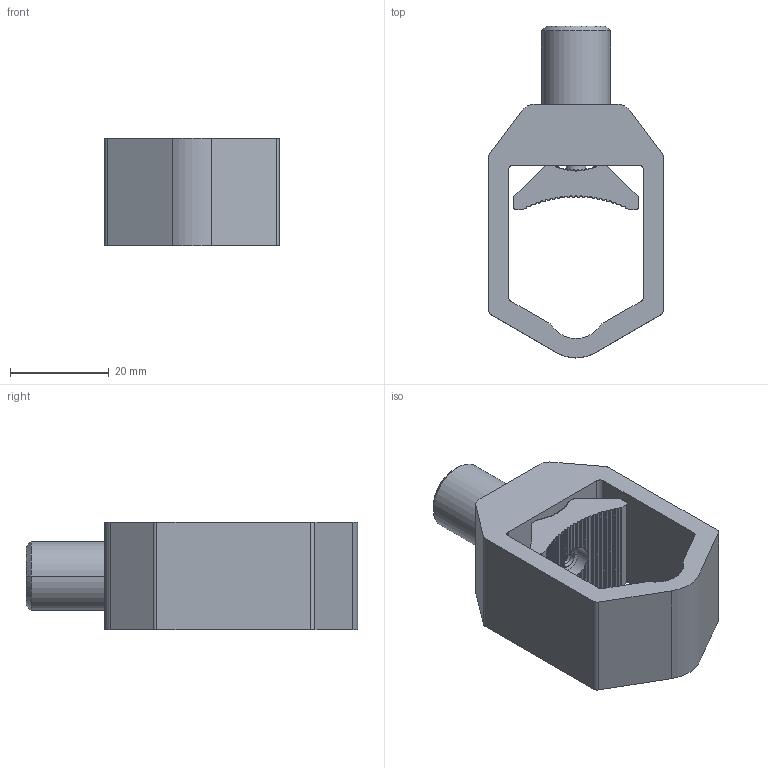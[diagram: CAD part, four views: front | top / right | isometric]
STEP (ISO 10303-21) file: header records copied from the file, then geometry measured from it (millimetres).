
FILE_DESCRIPTION (( 'STEP AP214' ), '1' );
FILE_NAME ('V-tømen 5845_NA015371_-_0.STEP', '2025-02-03T09:35:43', ( '' ), ( '' ), 'SwSTEP 2.0', 'SolidWorks 2015', '' );
FILE_SCHEMA (( 'AUTOMOTIVE_DESIGN' ));
Length unit declared in the file: millimetre
Products named in the file (4): V-trmen 5845_V-trmen 5845_-_0_Z00; V-pøíložka 5845_V-prilozka 5845_-_0_Z00; V-sroub M14 5845_V-sroub M14 5845_-_0_pro 1x240; V-tømen 5845_NA015371_-_0
Assembly tree (3 placements, depth 2):
  V-tømen 5845_NA015371_-_0
    V-trmen 5845_V-trmen 5845_-_0_Z00
    V-sroub M14 5845_V-sroub M14 5845_-_0_pro 1x240
    V-pøíložka 5845_V-prilozka 5845_-_0_Z00
Bounding box: 35.4 x 67.3 x 21.8 mm (x, y, z)
Volume: 21332.4 mm3; surface area: 11102.2 mm2
Topology: 3 solids, 3 shells, 266 faces, 756 edges, 497 vertices
Faces by surface type: cylinder 216, plane 36, cone 14
Entity records: 9294 total; most frequent: CARTESIAN_POINT 2057, DIRECTION 1536, ORIENTED_EDGE 1508, EDGE_CURVE 754, AXIS2_PLACEMENT_3D 616, VERTEX_POINT 497, CIRCLE 344, LINE 304
